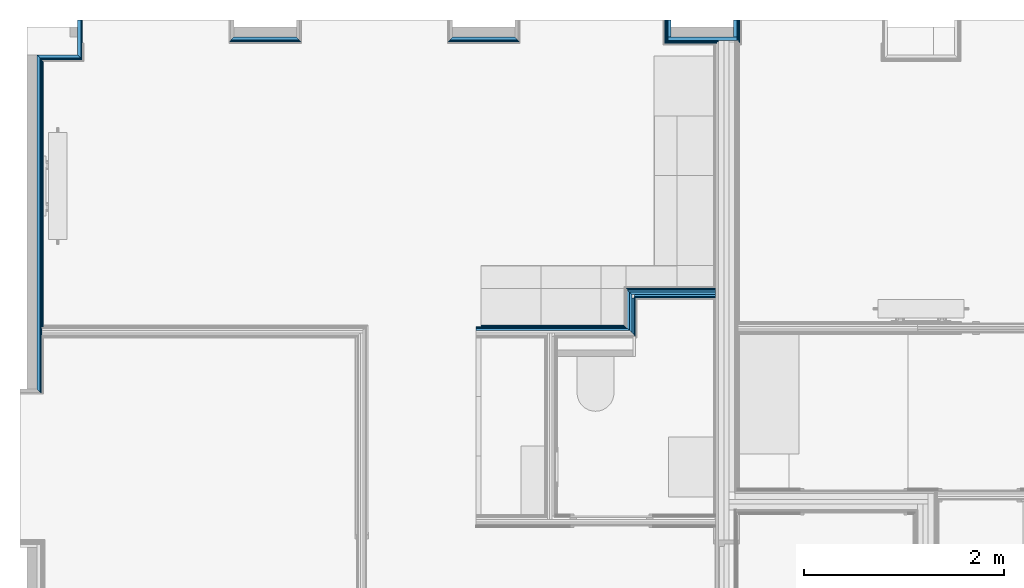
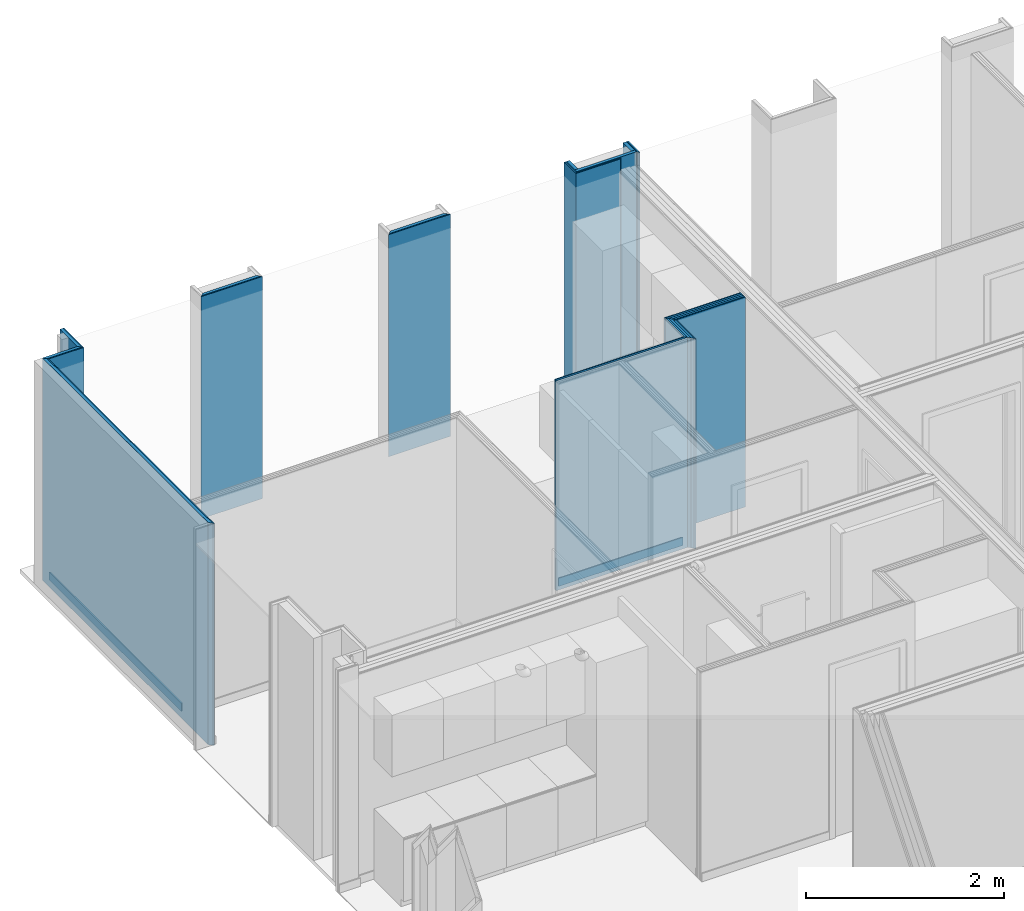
# One storey, part 15 of 82: 32 building element parts, 11 elements without a shape of their own.
"""IFC2X3 building model written with IfcOpenShell, lengths in metres."""

from ifc_helpers import new_model, entity, si_unit, converted_unit, derived_unit, money_unit, direction, frame, frame_2d, origin_with_axes, place, context, subcontext, project, spatial, polyline, rectangle, outline, extrude, material, type_object, element, aggregate, save


model = new_model("IFC2X3")

# Units and contexts
model_context = context("Model", 3, precision=1e-05, world=origin_with_axes(), true_north=direction((0.0, 1.0)))
body_context = subcontext(model_context, "Body", "Model", "MODEL_VIEW", scale=1.0)
ifc_project = project(units=[si_unit("LENGTHUNIT", "METRE"), si_unit("AREAUNIT", "SQUARE_METRE"), si_unit("VOLUMEUNIT", "CUBIC_METRE"), si_unit("ABSORBEDDOSEUNIT", "GRAY"), si_unit("AMOUNTOFSUBSTANCEUNIT", "MOLE"), si_unit("DOSEEQUIVALENTUNIT", "SIEVERT"), si_unit("ELECTRICCAPACITANCEUNIT", "FARAD"), si_unit("ELECTRICCHARGEUNIT", "COULOMB"), si_unit("ELECTRICCONDUCTANCEUNIT", "SIEMENS"), si_unit("ELECTRICCURRENTUNIT", "AMPERE"), si_unit("ELECTRICRESISTANCEUNIT", "OHM"), si_unit("ELECTRICVOLTAGEUNIT", "VOLT"), si_unit("ENERGYUNIT", "JOULE"), si_unit("FORCEUNIT", "NEWTON"), si_unit("FREQUENCYUNIT", "HERTZ"), si_unit("ILLUMINANCEUNIT", "LUX"), si_unit("INDUCTANCEUNIT", "HENRY"), si_unit("LUMINOUSFLUXUNIT", "LUMEN"), si_unit("LUMINOUSINTENSITYUNIT", "CANDELA"), si_unit("MAGNETICFLUXDENSITYUNIT", "TESLA"), si_unit("MAGNETICFLUXUNIT", "WEBER"), si_unit("MASSUNIT", "GRAM"), converted_unit("PLANEANGLEUNIT", "degree", entity("IfcReal", 0.0174532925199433), si_unit("PLANEANGLEUNIT", "RADIAN"), dimensions=[0, 0, 0, 0, 0, 0, 0]), si_unit("POWERUNIT", "WATT"), si_unit("PRESSUREUNIT", "PASCAL"), si_unit("RADIOACTIVITYUNIT", "BECQUEREL"), si_unit("SOLIDANGLEUNIT", "STERADIAN"), si_unit("THERMODYNAMICTEMPERATUREUNIT", "KELVIN"), si_unit("TIMEUNIT", "SECOND"), derived_unit("ACCELERATIONUNIT", [(si_unit("LENGTHUNIT", "METRE"), 1), (si_unit("TIMEUNIT", "SECOND"), -2)]), derived_unit("ANGULARVELOCITYUNIT", [(converted_unit("PLANEANGLEUNIT", "degree", entity("IfcReal", 0.0174532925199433), si_unit("PLANEANGLEUNIT", "RADIAN"), dimensions=[0, 0, 0, 0, 0, 0, 0]), 1), (si_unit("TIMEUNIT", "SECOND"), -1)]), derived_unit("CURVATUREUNIT", [(converted_unit("PLANEANGLEUNIT", "degree", entity("IfcReal", 0.0174532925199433), si_unit("PLANEANGLEUNIT", "RADIAN"), dimensions=[0, 0, 0, 0, 0, 0, 0]), 1), (si_unit("LENGTHUNIT", "METRE"), -1)]), derived_unit("DYNAMICVISCOSITYUNIT", [(si_unit("PRESSUREUNIT", "PASCAL"), 1), (si_unit("TIMEUNIT", "SECOND"), 1)]), derived_unit("HEATFLUXDENSITYUNIT", [(si_unit("POWERUNIT", "WATT"), 1), (si_unit("LENGTHUNIT", "METRE"), -2)]), derived_unit("HEATINGVALUEUNIT", [(si_unit("ENERGYUNIT", "JOULE"), 1), (si_unit("MASSUNIT", "GRAM"), -1)]), derived_unit("INTEGERCOUNTRATEUNIT", [(si_unit("TIMEUNIT", "SECOND"), -1)]), derived_unit("IONCONCENTRATIONUNIT", [(si_unit("MASSUNIT", "GRAM"), 1), (si_unit("VOLUMEUNIT", "CUBIC_METRE"), -1)]), derived_unit("ISOTHERMALMOISTURECAPACITYUNIT", [(si_unit("VOLUMEUNIT", "CUBIC_METRE"), 1), (si_unit("MASSUNIT", "GRAM"), -1)]), derived_unit("KINEMATICVISCOSITYUNIT", [(si_unit("AREAUNIT", "SQUARE_METRE"), 1), (si_unit("TIMEUNIT", "SECOND"), -1)]), derived_unit("LINEARFORCEUNIT", [(si_unit("FORCEUNIT", "NEWTON"), 1), (si_unit("LENGTHUNIT", "METRE"), -1)]), derived_unit("LINEARMOMENTUNIT", [(si_unit("FORCEUNIT", "NEWTON"), 1), (si_unit("LENGTHUNIT", "METRE"), -1)]), derived_unit("LINEARSTIFFNESSUNIT", [(si_unit("FORCEUNIT", "NEWTON"), 1), (si_unit("LENGTHUNIT", "METRE"), -1)]), derived_unit("LINEARVELOCITYUNIT", [(si_unit("LENGTHUNIT", "METRE"), 1), (si_unit("TIMEUNIT", "SECOND"), -1)]), derived_unit("LUMINOUSINTENSITYDISTRIBUTIONUNIT", [(si_unit("LUMINOUSINTENSITYUNIT", "CANDELA"), 1), (si_unit("LUMINOUSFLUXUNIT", "LUMEN"), -1)]), derived_unit("MASSDENSITYUNIT", [(si_unit("MASSUNIT", "GRAM"), 1), (si_unit("VOLUMEUNIT", "CUBIC_METRE"), -1)]), derived_unit("MASSFLOWRATEUNIT", [(si_unit("MASSUNIT", "GRAM"), 1), (si_unit("TIMEUNIT", "SECOND"), -1)]), derived_unit("MASSPERLENGTHUNIT", [(si_unit("MASSUNIT", "GRAM"), 1), (si_unit("LENGTHUNIT", "METRE"), -1)]), derived_unit("MODULUSOFELASTICITYUNIT", [(si_unit("FORCEUNIT", "NEWTON"), 1), (si_unit("AREAUNIT", "SQUARE_METRE"), -1)]), derived_unit("MODULUSOFLINEARSUBGRADEREACTIONUNIT", [(si_unit("FORCEUNIT", "NEWTON"), 1), (si_unit("LENGTHUNIT", "METRE"), -2)]), derived_unit("MODULUSOFROTATIONALSUBGRADEREACTIONUNIT", [(si_unit("FORCEUNIT", "NEWTON"), 1), (si_unit("LENGTHUNIT", "METRE"), 1)]), derived_unit("MODULUSOFSUBGRADEREACTIONUNIT", [(si_unit("FORCEUNIT", "NEWTON"), 1), (si_unit("VOLUMEUNIT", "CUBIC_METRE"), -1)]), derived_unit("MOISTUREDIFFUSIVITYUNIT", [(si_unit("VOLUMEUNIT", "CUBIC_METRE"), 1), (si_unit("TIMEUNIT", "SECOND"), -1)]), derived_unit("MOLECULARWEIGHTUNIT", [(si_unit("MASSUNIT", "GRAM"), 1), (si_unit("AMOUNTOFSUBSTANCEUNIT", "MOLE"), -1)]), derived_unit("PLANARFORCEUNIT", [(si_unit("FORCEUNIT", "NEWTON"), 1), (si_unit("LENGTHUNIT", "METRE"), -2)]), derived_unit("ROTATIONALFREQUENCYUNIT", [(si_unit("TIMEUNIT", "SECOND"), -1)]), derived_unit("ROTATIONALMASSUNIT", [(si_unit("MASSUNIT", "GRAM"), 1), (si_unit("LENGTHUNIT", "METRE"), 2)]), derived_unit("ROTATIONALSTIFFNESSUNIT", [(si_unit("FORCEUNIT", "NEWTON"), 1), (si_unit("LENGTHUNIT", "METRE"), 1), (converted_unit("PLANEANGLEUNIT", "degree", entity("IfcReal", 0.0174532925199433), si_unit("PLANEANGLEUNIT", "RADIAN"), dimensions=[0, 0, 0, 0, 0, 0, 0]), -1)]), derived_unit("SECTIONAREAINTEGRALUNIT", [(si_unit("LENGTHUNIT", "METRE"), 5)]), derived_unit("SECTIONMODULUSUNIT", [(si_unit("LENGTHUNIT", "METRE"), 3)]), derived_unit("SHEARMODULUSUNIT", [(si_unit("FORCEUNIT", "NEWTON"), 1), (si_unit("AREAUNIT", "SQUARE_METRE"), -1)]), derived_unit("SOUNDPOWERUNIT", [(si_unit("ENERGYUNIT", "JOULE"), 1), (si_unit("TIMEUNIT", "SECOND"), -1)]), derived_unit("SPECIFICHEATCAPACITYUNIT", [(si_unit("FORCEUNIT", "NEWTON"), 1), (si_unit("MASSUNIT", "GRAM"), -1), (si_unit("THERMODYNAMICTEMPERATUREUNIT", "KELVIN"), -1)]), derived_unit("TEMPERATUREGRADIENTUNIT", [(si_unit("THERMODYNAMICTEMPERATUREUNIT", "KELVIN"), 1), (si_unit("LENGTHUNIT", "METRE"), -1)]), derived_unit("THERMALADMITTANCEUNIT", [(si_unit("POWERUNIT", "WATT"), 1), (si_unit("AREAUNIT", "SQUARE_METRE"), -1), (si_unit("THERMODYNAMICTEMPERATUREUNIT", "KELVIN"), -1)]), derived_unit("THERMALCONDUCTANCEUNIT", [(si_unit("POWERUNIT", "WATT"), 1), (si_unit("LENGTHUNIT", "METRE"), -1), (si_unit("THERMODYNAMICTEMPERATUREUNIT", "KELVIN"), -1)]), derived_unit("THERMALEXPANSIONCOEFFICIENTUNIT", [(si_unit("THERMODYNAMICTEMPERATUREUNIT", "KELVIN"), -1)]), derived_unit("THERMALRESISTANCEUNIT", [(si_unit("AREAUNIT", "SQUARE_METRE"), 1), (si_unit("POWERUNIT", "WATT"), -1)]), derived_unit("THERMALTRANSMITTANCEUNIT", [(si_unit("POWERUNIT", "WATT"), 1), (si_unit("AREAUNIT", "SQUARE_METRE"), -1), (si_unit("THERMODYNAMICTEMPERATUREUNIT", "KELVIN"), -1)]), derived_unit("TORQUEUNIT", [(si_unit("FORCEUNIT", "NEWTON"), 1), (si_unit("LENGTHUNIT", "METRE"), 1)]), derived_unit("VAPORPERMEABILITYUNIT", [(si_unit("MASSUNIT", "GRAM"), 1), (si_unit("TIMEUNIT", "SECOND"), -1)]), derived_unit("VOLUMETRICFLOWRATEUNIT", [(si_unit("VOLUMEUNIT", "CUBIC_METRE"), 1), (si_unit("TIMEUNIT", "SECOND"), -1)]), derived_unit("WARPINGCONSTANTUNIT", [(si_unit("LENGTHUNIT", "METRE"), 6)]), derived_unit("WARPINGMOMENTUNIT", [(si_unit("FORCEUNIT", "NEWTON"), 1), (si_unit("LENGTHUNIT", "METRE"), 2)]), money_unit("GBP")], contexts=[model_context])

# Site, building, storey
site_placement = place(None, origin_with_axes())
site = spatial("IfcSite", under=ifc_project, at=site_placement, Name="Site", CompositionType="ELEMENT")
building_placement = place(site_placement, origin_with_axes())
building = spatial("IfcBuilding", under=site, at=building_placement, Name="Building01", CompositionType="ELEMENT")
storey_placement = place(building_placement, frame((0.0, 0.0, 12.13), z_axis=(0.0, 0.0, 1.0), x_axis=(1.0, 0.0, 0.0)))
storey = spatial("IfcBuildingStorey", under=building, at=storey_placement, Name="3F", CompositionType="ELEMENT", Elevation=12.13)

# Wall, building element parts
wall_type_1 = type_object("IfcWallType", Name="SHE_A-Walls_Type06d_ExternalWallInsulation_48mm", PredefinedType="NOTDEFINED")
wall_1_placement = place(storey_placement, frame((0.677, 14.8, 0.0), z_axis=(0.0, 0.0, 1.0), x_axis=(0.0, -1.0, 0.0)))
wall_1 = element("IfcWall", 1, at=wall_1_placement, inside=storey, type_object=wall_type_1, Name="6D", ObjectType="SHE_A-Walls_Type06d_ExternalWallInsulation_48mm")
ifc_material_1 = material(Name="A_BSUK_Insulation")
placement_1 = place(wall_1_placement, origin_with_axes())
building_element_part_1 = element("IfcBuildingElementPart", 2, at=placement_1, material=ifc_material_1, Name="1", context=body_context, shape_type="SweptSolid", body=[
    extrude(outline(polyline([(0.386, 0.036), (0.0, 0.036), (0.0, 0.0), (0.35, 0.0), (0.386, 0.036)])), origin_with_axes(), (0.0, 0.0, 1.0), 2.74),
])
ifc_material_2 = material(Name="A_BSUK_WallInternal_Finishes_Plasterboard")
building_element_part_2 = element("IfcBuildingElementPart", 3, at=placement_1, material=ifc_material_2, Name="2", context=body_context, shape_type="SweptSolid", body=[
    extrude(outline(polyline([(0.398, 0.048), (0.0, 0.048), (0.0, 0.035), (0.385, 0.035), (0.398, 0.048)])), origin_with_axes(), (0.0, 0.0, 1.0), 2.74),
])
aggregate(wall_1, [building_element_part_1, building_element_part_2])

wall_2_placement = place(storey_placement, frame((0.677, 14.45, 0.0), z_axis=(0.0, 0.0, 1.0), x_axis=(-1.0, 0.0, 0.0)))
wall_2 = element("IfcWall", 4, at=wall_2_placement, inside=storey, type_object=wall_type_1, Name="6D", ObjectType="SHE_A-Walls_Type06d_ExternalWallInsulation_48mm")
placement_2 = place(wall_2_placement, origin_with_axes())
building_element_part_3 = element("IfcBuildingElementPart", 5, at=placement_2, material=ifc_material_1, Name="1", context=body_context, shape_type="SweptSolid", body=[
    extrude(outline(polyline([(0.371, 0.036), (-0.036, 0.036), (0.0, 0.0), (0.407, 0.0), (0.371, 0.036)])), origin_with_axes(), (0.0, 0.0, 1.0), 2.74),
])
building_element_part_4 = element("IfcBuildingElementPart", 6, at=placement_2, material=ifc_material_2, Name="2", context=body_context, shape_type="SweptSolid", body=[
    extrude(outline(polyline([(0.359, 0.048), (-0.048, 0.048), (-0.035, 0.035), (0.372, 0.035), (0.359, 0.048)])), origin_with_axes(), (0.0, 0.0, 1.0), 2.74),
])
aggregate(wall_2, [building_element_part_3, building_element_part_4])

wall_3_placement = place(storey_placement, frame((2.867, 14.63, 0.0), z_axis=(0.0, 0.0, 1.0), x_axis=(-1.0, 0.0, 0.0)))
wall_3 = element("IfcWall", 7, at=wall_3_placement, inside=storey, type_object=wall_type_1, Name="6D", ObjectType="SHE_A-Walls_Type06d_ExternalWallInsulation_48mm")
placement_3 = place(wall_3_placement, origin_with_axes())
building_element_part_5 = element("IfcBuildingElementPart", 8, at=placement_3, material=ifc_material_1, Name="1", context=body_context, shape_type="SweptSolid", body=[
    extrude(outline(polyline([(0.66, 0.036), (-0.036, 0.036), (0.0, 0.0), (0.624, 0.0), (0.66, 0.036)])), origin_with_axes(), (0.0, 0.0, 1.0), 2.74),
])
building_element_part_6 = element("IfcBuildingElementPart", 9, at=placement_3, material=ifc_material_2, Name="2", context=body_context, shape_type="SweptSolid", body=[
    extrude(outline(polyline([(0.672, 0.048), (-0.048, 0.048), (-0.035, 0.035), (0.659, 0.035), (0.672, 0.048)])), origin_with_axes(), (0.0, 0.0, 1.0), 2.74),
])
aggregate(wall_3, [building_element_part_5, building_element_part_6])

wall_4_placement = place(storey_placement, frame((5.057, 14.63, 0.0), z_axis=(0.0, 0.0, 1.0), x_axis=(-1.0, 0.0, 0.0)))
wall_4 = element("IfcWall", 10, at=wall_4_placement, inside=storey, type_object=wall_type_1, Name="6D", ObjectType="SHE_A-Walls_Type06d_ExternalWallInsulation_48mm")
placement_4 = place(wall_4_placement, origin_with_axes())
building_element_part_7 = element("IfcBuildingElementPart", 11, at=placement_4, material=ifc_material_1, Name="1", context=body_context, shape_type="SweptSolid", body=[
    extrude(outline(polyline([(0.66, 0.036), (-0.036, 0.036), (0.0, 0.0), (0.624, 0.0), (0.66, 0.036)])), origin_with_axes(), (0.0, 0.0, 1.0), 2.74),
])
building_element_part_8 = element("IfcBuildingElementPart", 12, at=placement_4, material=ifc_material_2, Name="2", context=body_context, shape_type="SweptSolid", body=[
    extrude(outline(polyline([(0.672, 0.048), (-0.048, 0.048), (-0.035, 0.035), (0.659, 0.035), (0.672, 0.048)])), origin_with_axes(), (0.0, 0.0, 1.0), 2.74),
])
aggregate(wall_4, [building_element_part_7, building_element_part_8])

wall_5_placement = place(storey_placement, frame((0.27, 14.45, 0.0), z_axis=(0.0, 0.0, 1.0), x_axis=(0.0, -1.0, 0.0)))
wall_5 = element("IfcWall", 13, at=wall_5_placement, inside=storey, type_object=wall_type_1, Name="6D", ObjectType="SHE_A-Walls_Type06d_ExternalWallInsulation_48mm")
placement_5 = place(wall_5_placement, origin_with_axes())
building_element_part_9 = element("IfcBuildingElementPart", 14, at=placement_5, material=ifc_material_1, Name="1", context=body_context, shape_type="SweptSolid", body=[
    extrude(outline(polyline([(3.383, 0.036), (0.036, 0.036), (0.0, 0.0), (3.347, 0.0), (3.383, 0.036)])), origin_with_axes(), (0.0, 0.0, 1.0), 2.74),
])
building_element_part_10 = element("IfcBuildingElementPart", 15, at=placement_5, material=ifc_material_2, Name="2", context=body_context, shape_type="SweptSolid", body=[
    extrude(outline(polyline([(3.395, 0.048), (0.048, 0.048), (0.035, 0.035), (3.382, 0.035), (3.395, 0.048)])), origin_with_axes(), (0.0, 0.0, 1.0), 2.74),
])
ifc_material_3 = material(Name="A_BSUK_Walls_Timber")
building_element_part_11 = element("IfcBuildingElementPart", 16, at=placement_5, material=ifc_material_3, Name="3", context=body_context, shape_type="SweptSolid", body=[
    extrude(outline(polyline([(2.72433, 0.063), (0.063, 0.063), (0.048, 0.048), (2.72433, 0.048), (2.72433, 0.063)])), frame((0.0, 0.0, 0.015), z_axis=(0.0, 0.0, 1.0), x_axis=(1.0, 0.0, 0.0)), (0.0, 0.0, 1.0), 0.1),
])
aggregate(wall_5, [building_element_part_9, building_element_part_10, building_element_part_11])

wall_type_2 = type_object("IfcWallType", Name="SHE_A-Walls_Type05a_Partition_95mm_tall", PredefinedType="NOTDEFINED")
wall_6_placement = place(storey_placement, frame((6.229669, 11.66567, 0.0), z_axis=(0.0, 0.0, 1.0), x_axis=(0.0, 1.0, 0.0)))
wall_6 = element("IfcWall", 17, at=wall_6_placement, inside=storey, type_object=wall_type_2, Name="5A", ObjectType="SHE_A-Walls_Type05a_Partition_95mm_tall")
placement_6 = place(wall_6_placement, origin_with_axes())
building_element_part_12 = element("IfcBuildingElementPart", 18, at=placement_6, material=ifc_material_2, Name="2", context=body_context, shape_type="SweptSolid", body=[
    extrude(outline(polyline([(0.35, -0.023), (-0.023, -0.023), (-0.035, -0.035), (0.35, -0.035), (0.35, -0.023)])), origin_with_axes(), (0.0, 0.0, 1.0), 2.59),
])
ifc_material_4 = material(Name="Air Cavity")
building_element_part_13 = element("IfcBuildingElementPart", 19, at=placement_6, material=ifc_material_4, Name="3", context=body_context, shape_type="SweptSolid", body=[
    extrude(outline(polyline([(0.35, 0.0), (0.0, 0.0), (-0.023, -0.023), (0.35, -0.023), (0.35, 0.0)])), origin_with_axes(), (0.0, 0.0, 1.0), 2.59),
])
building_element_part_14 = element("IfcBuildingElementPart", 20, at=placement_6, material=ifc_material_1, Name="4", context=body_context, shape_type="SweptSolid", body=[
    extrude(outline(polyline([(0.41, 0.025), (0.025, 0.025), (0.0, 0.0), (0.385, 0.0), (0.41, 0.025)])), origin_with_axes(), (0.0, 0.0, 1.0), 2.59),
])
building_element_part_15 = element("IfcBuildingElementPart", 21, at=placement_6, material=ifc_material_4, Name="5", context=body_context, shape_type="SweptSolid", body=[
    extrude(outline(polyline([(0.433, 0.048), (0.048, 0.048), (0.025, 0.025), (0.41, 0.025), (0.433, 0.048)])), origin_with_axes(), (0.0, 0.0, 1.0), 2.59),
])
aggregate(wall_6, [building_element_part_12, building_element_part_13, building_element_part_14, building_element_part_15])

wall_7_placement = place(storey_placement, frame((6.229669, 12.05067, 0.0), z_axis=(0.0, 0.0, 1.0), x_axis=(1.0, 0.0, 0.0)))
wall_7 = element("IfcWall", 22, at=wall_7_placement, inside=storey, type_object=wall_type_2, Name="5A", ObjectType="SHE_A-Walls_Type05a_Partition_95mm_tall")
placement_7 = place(wall_7_placement, origin_with_axes())
building_element_part_16 = element("IfcBuildingElementPart", 23, at=placement_7, material=ifc_material_2, Name="2", context=body_context, shape_type="SweptSolid", body=[
    extrude(rectangle(XDim=0.812, YDim=0.012, at=frame_2d((0.429, -0.029), x_axis=(-1.0, 0.0))), origin_with_axes(), (0.0, 0.0, 1.0), 2.59),
])
building_element_part_17 = element("IfcBuildingElementPart", 24, at=placement_7, material=ifc_material_4, Name="3", context=body_context, shape_type="SweptSolid", body=[
    extrude(rectangle(XDim=0.812, YDim=0.023, at=frame_2d((0.429, -0.0115), x_axis=(-1.0, 0.0))), origin_with_axes(), (0.0, 0.0, 1.0), 2.59),
])
building_element_part_18 = element("IfcBuildingElementPart", 25, at=placement_7, material=ifc_material_1, Name="4", context=body_context, shape_type="SweptSolid", body=[
    extrude(outline(polyline([(0.835, 0.025), (-0.025, 0.025), (0.0, 0.0), (0.835, 0.0), (0.835, 0.025)])), origin_with_axes(), (0.0, 0.0, 1.0), 2.59),
])
building_element_part_19 = element("IfcBuildingElementPart", 26, at=placement_7, material=ifc_material_4, Name="5", context=body_context, shape_type="SweptSolid", body=[
    extrude(outline(polyline([(0.835, 0.048), (-0.048, 0.048), (-0.025, 0.025), (0.835, 0.025), (0.835, 0.048)])), origin_with_axes(), (0.0, 0.0, 1.0), 2.59),
])
building_element_part_20 = element("IfcBuildingElementPart", 27, at=placement_7, material=ifc_material_2, Name="6", context=body_context, shape_type="SweptSolid", body=[
    extrude(outline(polyline([(0.835, 0.06), (-0.06, 0.06), (-0.048, 0.048), (0.835, 0.048), (0.835, 0.06)])), origin_with_axes(), (0.0, 0.0, 1.0), 2.59),
])
aggregate(wall_7, [building_element_part_16, building_element_part_17, building_element_part_18, building_element_part_19, building_element_part_20])

wall_8_placement = place(storey_placement, frame((4.669669, 11.66567, 0.0), z_axis=(0.0, 0.0, 1.0), x_axis=(1.0, 0.0, 0.0)))
wall_8 = element("IfcWall", 28, at=wall_8_placement, inside=storey, type_object=wall_type_2, Name="5A", ObjectType="SHE_A-Walls_Type05a_Partition_95mm_tall")
placement_8 = place(wall_8_placement, origin_with_axes())
building_element_part_21 = element("IfcBuildingElementPart", 29, at=placement_8, material=ifc_material_4, Name="7", context=body_context, shape_type="SweptSolid", body=[
    extrude(outline(polyline([(1.512, 0.048), (0.0, 0.048), (0.0, 0.025), (1.535, 0.025), (1.512, 0.048)])), origin_with_axes(), (0.0, 0.0, 1.0), 2.59),
])
building_element_part_22 = element("IfcBuildingElementPart", 30, at=placement_8, material=ifc_material_2, Name="8", context=body_context, shape_type="SweptSolid", body=[
    extrude(outline(polyline([(1.5, 0.06), (0.0, 0.06), (0.0, 0.048), (1.512, 0.048), (1.5, 0.06)])), origin_with_axes(), (0.0, 0.0, 1.0), 2.59),
])
building_element_part_23 = element("IfcBuildingElementPart", 31, at=placement_8, material=ifc_material_3, Name="9", context=body_context, shape_type="SweptSolid", body=[
    extrude(outline(polyline([(1.485, 0.075), (0.05, 0.075), (0.05, 0.06), (1.5, 0.06), (1.485, 0.075)])), frame((0.0, 0.0, 0.015), z_axis=(0.0, 0.0, 1.0), x_axis=(1.0, 0.0, 0.0)), (0.0, 0.0, 1.0), 0.1),
])
aggregate(wall_8, [building_element_part_21, building_element_part_22, building_element_part_23])

wall_type_3 = type_object("IfcWallType", Name="SHE_A-Walls_Type06f_ExternalWallInsulation_48+15mm", PredefinedType="NOTDEFINED")
wall_9_placement = place(storey_placement, frame((6.622876, 14.8, 0.0), z_axis=(0.0, 0.0, 1.0), x_axis=(0.0, -1.0, 0.0)))
wall_9 = element("IfcWall", 32, at=wall_9_placement, inside=storey, type_object=wall_type_3, Name="6F", ObjectType="SHE_A-Walls_Type06f_ExternalWallInsulation_48+15mm")
placement_9 = place(wall_9_placement, origin_with_axes())
building_element_part_24 = element("IfcBuildingElementPart", 33, at=placement_9, material=ifc_material_2, Name="2", context=body_context, shape_type="SweptSolid", body=[
    extrude(outline(polyline([(0.218, -0.048), (0.0, -0.048), (0.0, -0.063), (0.233, -0.063), (0.218, -0.048)])), origin_with_axes(), (0.0, 0.0, 1.0), 2.74),
])
building_element_part_25 = element("IfcBuildingElementPart", 34, at=placement_9, material=ifc_material_2, Name="3", context=body_context, shape_type="SweptSolid", body=[
    extrude(rectangle(XDim=0.206, YDim=0.012, at=frame_2d((0.103, -0.042), x_axis=(-1.0, 0.0))), origin_with_axes(), (0.0, 0.0, 1.0), 2.74),
])
building_element_part_26 = element("IfcBuildingElementPart", 35, at=placement_9, material=ifc_material_1, Name="4", context=body_context, shape_type="SweptSolid", body=[
    extrude(rectangle(XDim=0.17, YDim=0.036, at=frame_2d((0.085, -0.018), x_axis=(-1.0, 0.0))), origin_with_axes(), (0.0, 0.0, 1.0), 2.74),
])
aggregate(wall_9, [building_element_part_24, building_element_part_25, building_element_part_26])

wall_10_placement = place(storey_placement, frame((7.247, 14.8, 0.0), z_axis=(0.0, 0.0, 1.0), x_axis=(0.0, -1.0, 0.0)))
wall_10 = element("IfcWall", 36, at=wall_10_placement, inside=storey, type_object=wall_type_3, Name="6F", ObjectType="SHE_A-Walls_Type06f_ExternalWallInsulation_48+15mm")
placement_10 = place(wall_10_placement, origin_with_axes())
building_element_part_27 = element("IfcBuildingElementPart", 37, at=placement_10, material=ifc_material_1, Name="1", context=body_context, shape_type="SweptSolid", body=[
    extrude(rectangle(XDim=0.17, YDim=0.036, at=frame_2d((0.085, 0.018), x_axis=(-1.0, 0.0))), origin_with_axes(), (0.0, 0.0, 1.0), 2.74),
])
building_element_part_28 = element("IfcBuildingElementPart", 38, at=placement_10, material=ifc_material_2, Name="2", context=body_context, shape_type="SweptSolid", body=[
    extrude(rectangle(XDim=0.206, YDim=0.012, at=frame_2d((0.103, 0.042), x_axis=(-1.0, 0.0))), origin_with_axes(), (0.0, 0.0, 1.0), 2.74),
])
building_element_part_29 = element("IfcBuildingElementPart", 39, at=placement_10, material=ifc_material_2, Name="3", context=body_context, shape_type="SweptSolid", body=[
    extrude(outline(polyline([(0.233, 0.063), (0.0, 0.063), (0.0, 0.048), (0.218, 0.048), (0.233, 0.063)])), origin_with_axes(), (0.0, 0.0, 1.0), 2.74),
])
aggregate(wall_10, [building_element_part_27, building_element_part_28, building_element_part_29])

wall_11_placement = place(storey_placement, frame((7.283, 14.63, 0.0), z_axis=(0.0, 0.0, 1.0), x_axis=(-1.0, 0.0, 0.0)))
wall_11 = element("IfcWall", 40, at=wall_11_placement, inside=storey, type_object=wall_type_3, Name="6F", ObjectType="SHE_A-Walls_Type06f_ExternalWallInsulation_48+15mm")
placement_11 = place(wall_11_placement, origin_with_axes())
building_element_part_30 = element("IfcBuildingElementPart", 41, at=placement_11, material=ifc_material_1, Name="1", context=body_context, shape_type="SweptSolid", body=[
    extrude(rectangle(XDim=0.696124, YDim=0.036, at=frame_2d((0.348062, 0.018), x_axis=(-1.0, 0.0))), origin_with_axes(), (0.0, 0.0, 1.0), 2.74),
])
building_element_part_31 = element("IfcBuildingElementPart", 42, at=placement_11, material=ifc_material_2, Name="3", context=body_context, shape_type="SweptSolid", body=[
    extrude(rectangle(XDim=0.519793, YDim=0.012, at=frame_2d((0.448228, 0.042), x_axis=(-1.0, 0.0))), origin_with_axes(), (0.0, 0.0, 1.0), 2.74),
])
building_element_part_32 = element("IfcBuildingElementPart", 43, at=placement_11, material=ifc_material_2, Name="5", context=body_context, shape_type="SweptSolid", body=[
    extrude(outline(polyline([(0.723124, 0.063), (0.203331, 0.063), (0.203331, 0.048), (0.708124, 0.048), (0.723124, 0.063)])), origin_with_axes(), (0.0, 0.0, 1.0), 2.74),
])
aggregate(wall_11, [building_element_part_30, building_element_part_31, building_element_part_32])

save(model, "model.ifc")
